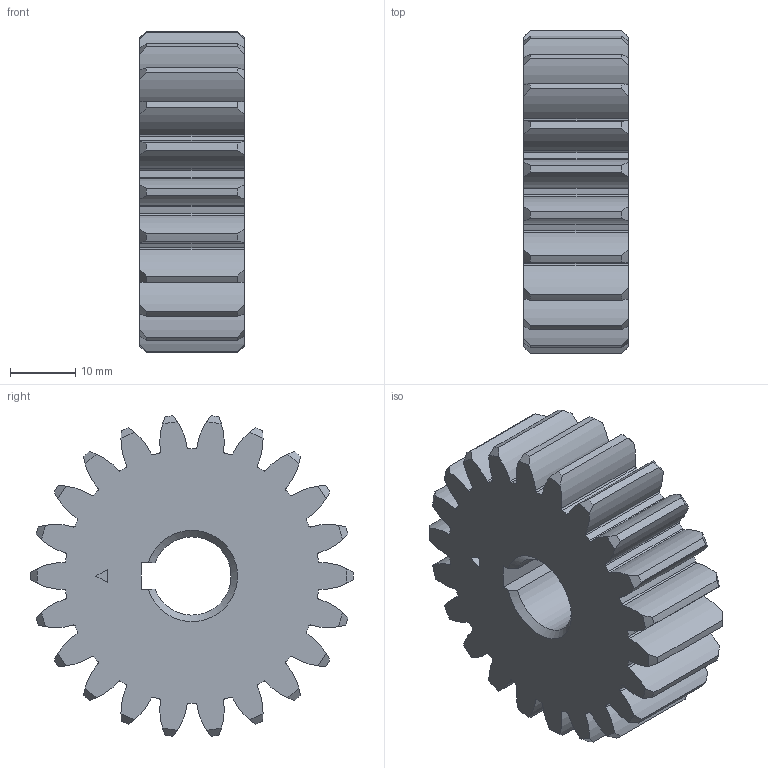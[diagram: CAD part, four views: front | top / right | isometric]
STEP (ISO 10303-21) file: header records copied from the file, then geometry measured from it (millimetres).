
FILE_DESCRIPTION(/* description */ (''),/* implementation_level */ '2;1');
FILE_NAME(/* name */ '',/* time_stamp */ '2025-06-27T16:31:31+09:00',/* author */ ('jhkim'),/* organization */ (''),/* preprocessor_version */ 'ST-DEVELOPER v20.1',/* originating_system */ 'Autodesk Inventor 2026',/* authorisation */ '');
FILE_SCHEMA (('AUTOMOTIVE_DESIGN { 1 0 10303 214 3 1 1 }'));
Length unit declared in the file: millimetre
Products named in the file (1): 스퍼기어
Bounding box: 16 x 49.5 x 49.15 mm (x, y, z)
Volume: 23107.5 mm3; surface area: 8287.1 mm2
Topology: 1 solids, 1 shells, 192 faces, 564 edges, 376 vertices
Faces by surface type: cylinder 133, cone 46, plane 13
Entity records: 6691 total; most frequent: CARTESIAN_POINT 1405, DIRECTION 1170, ORIENTED_EDGE 1128, EDGE_CURVE 564, AXIS2_PLACEMENT_3D 505, VERTEX_POINT 376, CIRCLE 312, EDGE_LOOP 196
